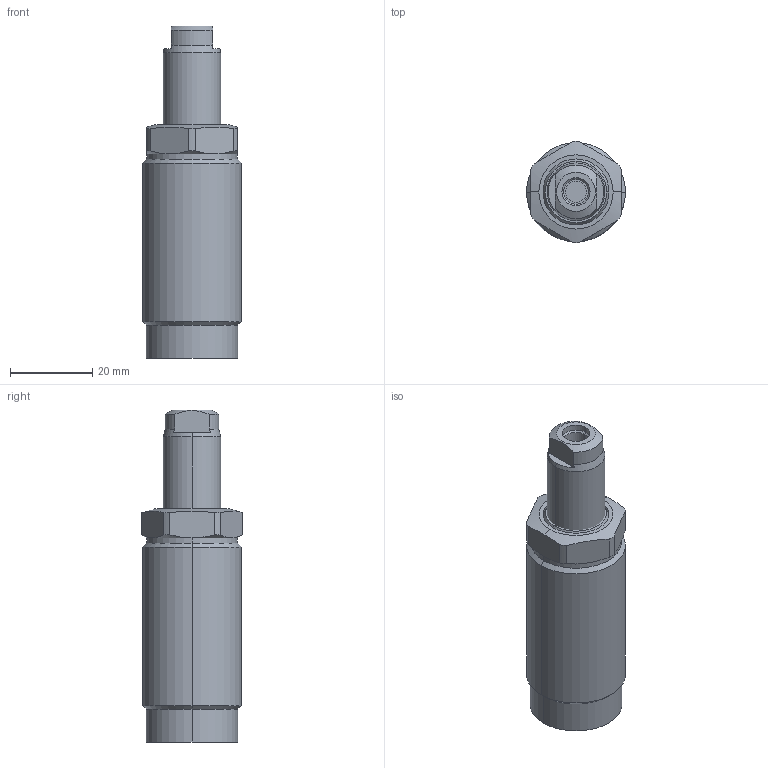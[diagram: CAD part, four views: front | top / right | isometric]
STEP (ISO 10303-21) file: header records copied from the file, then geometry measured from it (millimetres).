
FILE_DESCRIPTION (( 'STEP AP203' ), '1' );
FILE_NAME ('650241-AL.step', '2016-11-02T03:15:07', ( 'wxp' ), ( '' ), 'SwSTEP 2.0', 'SolidWorks 2011', '' );
FILE_SCHEMA (( 'CONFIG_CONTROL_DESIGN' ));
Length unit declared in the file: millimetre
Products named in the file (3): 650241-AL; 葩璃 650241-AL.sldasm-Part-2^650241-AL; 葩璃 650241-AL.sldasm-Part-1^650241-AL
Assembly tree (2 placements, depth 2):
  650241-AL
    葩璃 650241-AL.sldasm-Part-2^650241-AL
    葩璃 650241-AL.sldasm-Part-1^650241-AL
Bounding box: 24 x 24.49 x 80.5 mm (x, y, z)
Volume: 27954.6 mm3; surface area: 6952.2 mm2
Topology: 2 solids, 2 shells, 84 faces, 186 edges, 113 vertices
Faces by surface type: cylinder 34, cone 22, plane 22, torus 6
Entity records: 2693 total; most frequent: CARTESIAN_POINT 518, DIRECTION 430, ORIENTED_EDGE 368, AXIS2_PLACEMENT_3D 185, EDGE_CURVE 184, VERTEX_POINT 113, CIRCLE 96, EDGE_LOOP 93
